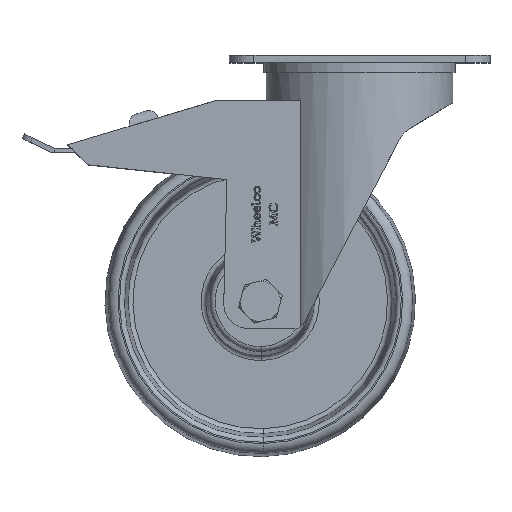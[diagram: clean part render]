
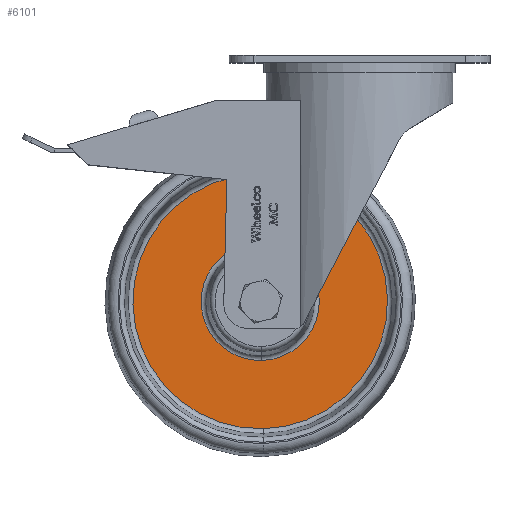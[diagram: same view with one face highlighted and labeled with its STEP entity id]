
A CAD part, top view. The second image highlights one B-rep face of the part: STEP entity #6101.
In plain terms, the highlighted planar face has unit normal (0.002, 0, 1) as drawn and (0, 1, 0) by its records, which use the part's own axes.
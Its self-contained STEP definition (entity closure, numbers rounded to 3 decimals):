
#456 = VERTEX_POINT ( 'NONE', #15076 ) ;
#648 = DIRECTION ( 'NONE',  ( 0., 1., 0. ) ) ;
#778 = FACE_BOUND ( 'NONE', #12830, .T. ) ;
#929 = EDGE_CURVE ( 'NONE', #456, #2428, #19835, .T. ) ;
#2202 = CARTESIAN_POINT ( 'NONE',  ( 0., 4., 0. ) ) ;
#2428 = VERTEX_POINT ( 'NONE', #23196 ) ;
#3169 = VERTEX_POINT ( 'NONE', #11516 ) ;
#3302 = DIRECTION ( 'NONE',  ( 0., -1., 0. ) ) ;
#3918 = CIRCLE ( 'NONE', #18288, 51.249 ) ;
#4961 = DIRECTION ( 'NONE',  ( 0., 0., -1. ) ) ;
#5996 = DIRECTION ( 'NONE',  ( 0., 0., -1. ) ) ;
#6101 = ADVANCED_FACE ( 'NONE', ( #778, #10392 ), #14400, .T. ) ;
#8023 = VERTEX_POINT ( 'NONE', #24194 ) ;
#9606 = DIRECTION ( 'NONE',  ( 0., -1., 0. ) ) ;
#10392 = FACE_OUTER_BOUND ( 'NONE', #21004, .T. ) ;
#11391 = CIRCLE ( 'NONE', #21761, 23.79 ) ;
#11516 = CARTESIAN_POINT ( 'NONE',  ( 0., 4., -51.249 ) ) ;
#11559 = DIRECTION ( 'NONE',  ( 0., 0., -1. ) ) ;
#12830 = EDGE_LOOP ( 'NONE', ( #20843, #21739 ) ) ;
#13216 = EDGE_CURVE ( 'NONE', #3169, #8023, #21145, .T. ) ;
#13554 = AXIS2_PLACEMENT_3D ( 'NONE', #14163, #648, #21749 ) ;
#13959 = DIRECTION ( 'NONE',  ( 0., -1., 0. ) ) ;
#14163 = CARTESIAN_POINT ( 'NONE',  ( 23.79, 4., 0. ) ) ;
#14400 = PLANE ( 'NONE',  #13554 ) ;
#14708 = CARTESIAN_POINT ( 'NONE',  ( 0., 4., 0. ) ) ;
#15076 = CARTESIAN_POINT ( 'NONE',  ( 0., 4., -23.79 ) ) ;
#15157 = AXIS2_PLACEMENT_3D ( 'NONE', #23417, #13959, #17797 ) ;
#16227 = DIRECTION ( 'NONE',  ( 0., -1., 0. ) ) ;
#16526 = ORIENTED_EDGE ( 'NONE', *, *, #13216, .F. ) ;
#16955 = EDGE_CURVE ( 'NONE', #2428, #456, #11391, .T. ) ;
#17797 = DIRECTION ( 'NONE',  ( 0., 0., -1. ) ) ;
#18288 = AXIS2_PLACEMENT_3D ( 'NONE', #20367, #16227, #4961 ) ;
#19835 = CIRCLE ( 'NONE', #24187, 23.79 ) ;
#20367 = CARTESIAN_POINT ( 'NONE',  ( 0., 4., 0. ) ) ;
#20843 = ORIENTED_EDGE ( 'NONE', *, *, #929, .T. ) ;
#21004 = EDGE_LOOP ( 'NONE', ( #16526, #23639 ) ) ;
#21145 = CIRCLE ( 'NONE', #15157, 51.249 ) ;
#21739 = ORIENTED_EDGE ( 'NONE', *, *, #16955, .T. ) ;
#21749 = DIRECTION ( 'NONE',  ( 0., 0., 1. ) ) ;
#21761 = AXIS2_PLACEMENT_3D ( 'NONE', #14708, #3302, #11559 ) ;
#22404 = EDGE_CURVE ( 'NONE', #8023, #3169, #3918, .T. ) ;
#23196 = CARTESIAN_POINT ( 'NONE',  ( 0., 4., 23.79 ) ) ;
#23417 = CARTESIAN_POINT ( 'NONE',  ( 0., 4., 0. ) ) ;
#23639 = ORIENTED_EDGE ( 'NONE', *, *, #22404, .F. ) ;
#24187 = AXIS2_PLACEMENT_3D ( 'NONE', #2202, #9606, #5996 ) ;
#24194 = CARTESIAN_POINT ( 'NONE',  ( 0., 4., 51.249 ) ) ;
